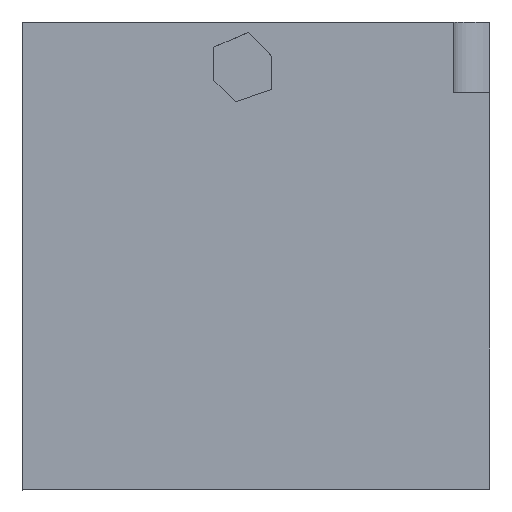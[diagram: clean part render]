
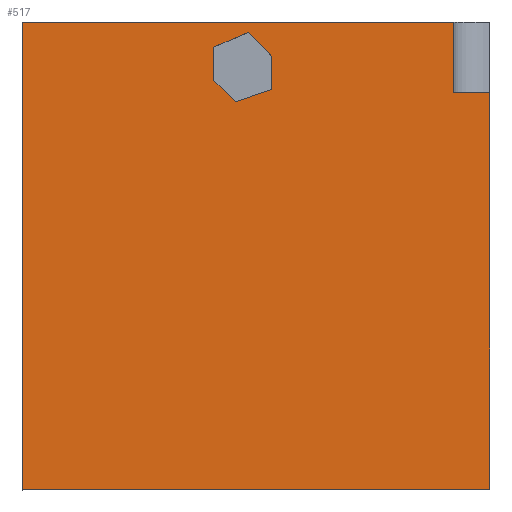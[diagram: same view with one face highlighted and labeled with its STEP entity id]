
A CAD part, top view. The second image highlights one B-rep face of the part: STEP entity #517.
In plain terms, the highlighted planar face has unit normal (0, 0, 1).
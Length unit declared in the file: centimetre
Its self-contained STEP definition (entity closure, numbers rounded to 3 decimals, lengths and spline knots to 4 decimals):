
#4 = CARTESIAN_POINT ( 'NONE',  ( 0., 0., 1000. ) ) ;
#15 = AXIS2_PLACEMENT_3D ( 'NONE', #153, #516, #872 ) ;
#34 = VECTOR ( 'NONE', #616, 100. ) ;
#39 = LINE ( 'NONE', #45, #951 ) ;
#45 = CARTESIAN_POINT ( 'NONE',  ( 1000., 1000., 1000. ) ) ;
#49 = VERTEX_POINT ( 'NONE', #676 ) ;
#89 = CARTESIAN_POINT ( 'NONE',  ( 0., 1000., 1000. ) ) ;
#91 = ORIENTED_EDGE ( 'NONE', *, *, #715, .F. ) ;
#101 = EDGE_CURVE ( 'NONE', #917, #49, #406, .T. ) ;
#116 = DIRECTION ( 'NONE',  ( 0., 1., 0. ) ) ;
#122 = ORIENTED_EDGE ( 'NONE', *, *, #808, .F. ) ;
#153 = CARTESIAN_POINT ( 'NONE',  ( 0., 0., 1000. ) ) ;
#154 = CARTESIAN_POINT ( 'NONE',  ( 1000., 0., 1000. ) ) ;
#160 = VECTOR ( 'NONE', #474, 100. ) ;
#174 = VECTOR ( 'NONE', #212, 100. ) ;
#180 = CARTESIAN_POINT ( 'NONE',  ( 410.0288, 946.1053, 1000. ) ) ;
#187 = CARTESIAN_POINT ( 'NONE',  ( 0., 849.4527, 1000. ) ) ;
#189 = EDGE_CURVE ( 'NONE', #912, #325, #1149, .T. ) ;
#196 = VECTOR ( 'NONE', #466, 100. ) ;
#199 = ORIENTED_EDGE ( 'NONE', *, *, #207, .T. ) ;
#201 = CARTESIAN_POINT ( 'NONE',  ( 533.9582, 855.685, 1000. ) ) ;
#204 = ORIENTED_EDGE ( 'NONE', *, *, #673, .T. ) ;
#206 = LINE ( 'NONE', #933, #174 ) ;
#207 = EDGE_CURVE ( 'NONE', #1107, #634, #530, .T. ) ;
#211 = ORIENTED_EDGE ( 'NONE', *, *, #719, .F. ) ;
#212 = DIRECTION ( 'NONE',  ( -0.916, -0.401, 0. ) ) ;
#224 = DIRECTION ( 'NONE',  ( 0., 1., 0. ) ) ;
#249 = DIRECTION ( 'NONE',  ( 0., -1., 0. ) ) ;
#291 = VERTEX_POINT ( 'NONE', #180 ) ;
#309 = LINE ( 'NONE', #735, #614 ) ;
#317 = CARTESIAN_POINT ( 'NONE',  ( 455.4455, 829.138, 1000. ) ) ;
#325 = VERTEX_POINT ( 'NONE', #1017 ) ;
#361 = ORIENTED_EDGE ( 'NONE', *, *, #846, .T. ) ;
#374 = LINE ( 'NONE', #730, #160 ) ;
#404 = CARTESIAN_POINT ( 'NONE',  ( 410.0288, 874.5546, 1000. ) ) ;
#406 = LINE ( 'NONE', #849, #893 ) ;
#411 = CARTESIAN_POINT ( 'NONE',  ( 455.4455, 829.138, 1000. ) ) ;
#413 = LINE ( 'NONE', #778, #630 ) ;
#448 = DIRECTION ( 'NONE',  ( -1., 0., 0. ) ) ;
#457 = ORIENTED_EDGE ( 'NONE', *, *, #633, .T. ) ;
#461 = VECTOR ( 'NONE', #448, 100. ) ;
#462 = LINE ( 'NONE', #187, #196 ) ;
#466 = DIRECTION ( 'NONE',  ( -1., 0., 0. ) ) ;
#467 = EDGE_CURVE ( 'NONE', #291, #755, #413, .T. ) ;
#471 = EDGE_LOOP ( 'NONE', ( #91, #122, #211, #953, #559, #770 ) ) ;
#474 = DIRECTION ( 'NONE',  ( 0.707, -0.707, 0. ) ) ;
#480 = DIRECTION ( 'NONE',  ( 0.947, 0.32, 0. ) ) ;
#502 = VECTOR ( 'NONE', #971, 100. ) ;
#516 = DIRECTION ( 'NONE',  ( 0., 0., 1. ) ) ;
#517 = ADVANCED_FACE ( 'NONE', ( #602, #521 ), #957, .T. ) ;
#518 = CARTESIAN_POINT ( 'NONE',  ( 922.3464, 1000., 1000. ) ) ;
#521 = FACE_OUTER_BOUND ( 'NONE', #832, .T. ) ;
#530 = LINE ( 'NONE', #1137, #502 ) ;
#559 = ORIENTED_EDGE ( 'NONE', *, *, #895, .F. ) ;
#579 = ORIENTED_EDGE ( 'NONE', *, *, #732, .T. ) ;
#602 = FACE_BOUND ( 'NONE', #471, .T. ) ;
#614 = VECTOR ( 'NONE', #757, 100. ) ;
#616 = DIRECTION ( 'NONE',  ( -0.707, 0.707, 0. ) ) ;
#630 = VECTOR ( 'NONE', #249, 100. ) ;
#633 = EDGE_CURVE ( 'NONE', #917, #1107, #894, .T. ) ;
#634 = VERTEX_POINT ( 'NONE', #4 ) ;
#650 = LINE ( 'NONE', #317, #651 ) ;
#651 = VECTOR ( 'NONE', #480, 100. ) ;
#655 = ORIENTED_EDGE ( 'NONE', *, *, #101, .F. ) ;
#666 = VERTEX_POINT ( 'NONE', #1082 ) ;
#673 = EDGE_CURVE ( 'NONE', #666, #49, #462, .T. ) ;
#676 = CARTESIAN_POINT ( 'NONE',  ( 922.3464, 849.4527, 1000. ) ) ;
#687 = CARTESIAN_POINT ( 'NONE',  ( 533.9582, 855.685, 1000. ) ) ;
#715 = EDGE_CURVE ( 'NONE', #916, #912, #914, .T. ) ;
#719 = EDGE_CURVE ( 'NONE', #755, #936, #374, .T. ) ;
#730 = CARTESIAN_POINT ( 'NONE',  ( 410.0288, 874.5546, 1000. ) ) ;
#732 = EDGE_CURVE ( 'NONE', #634, #983, #309, .T. ) ;
#735 = CARTESIAN_POINT ( 'NONE',  ( 0., 0., 1000. ) ) ;
#755 = VERTEX_POINT ( 'NONE', #404 ) ;
#757 = DIRECTION ( 'NONE',  ( 1., 0., 0. ) ) ;
#766 = DIRECTION ( 'NONE',  ( 0., -1., 0. ) ) ;
#770 = ORIENTED_EDGE ( 'NONE', *, *, #189, .F. ) ;
#778 = CARTESIAN_POINT ( 'NONE',  ( 410.0288, 946.1053, 1000. ) ) ;
#780 = CARTESIAN_POINT ( 'NONE',  ( 533.9582, 927.2357, 1000. ) ) ;
#788 = CARTESIAN_POINT ( 'NONE',  ( 533.9582, 927.2357, 1000. ) ) ;
#808 = EDGE_CURVE ( 'NONE', #936, #916, #650, .T. ) ;
#821 = CARTESIAN_POINT ( 'NONE',  ( 0., 1000., 1000. ) ) ;
#832 = EDGE_LOOP ( 'NONE', ( #655, #457, #199, #579, #361, #204 ) ) ;
#846 = EDGE_CURVE ( 'NONE', #983, #666, #39, .T. ) ;
#849 = CARTESIAN_POINT ( 'NONE',  ( 922.3464, 849.4527, 1000. ) ) ;
#863 = VECTOR ( 'NONE', #116, 100. ) ;
#872 = DIRECTION ( 'NONE',  ( 1., 0., 0. ) ) ;
#893 = VECTOR ( 'NONE', #766, 100. ) ;
#894 = LINE ( 'NONE', #89, #461 ) ;
#895 = EDGE_CURVE ( 'NONE', #325, #291, #206, .T. ) ;
#912 = VERTEX_POINT ( 'NONE', #780 ) ;
#914 = LINE ( 'NONE', #201, #863 ) ;
#916 = VERTEX_POINT ( 'NONE', #687 ) ;
#917 = VERTEX_POINT ( 'NONE', #518 ) ;
#933 = CARTESIAN_POINT ( 'NONE',  ( 483.0944, 978.0996, 1000. ) ) ;
#936 = VERTEX_POINT ( 'NONE', #411 ) ;
#951 = VECTOR ( 'NONE', #224, 100. ) ;
#953 = ORIENTED_EDGE ( 'NONE', *, *, #467, .F. ) ;
#957 = PLANE ( 'NONE',  #15 ) ;
#971 = DIRECTION ( 'NONE',  ( 0., -1., 0. ) ) ;
#983 = VERTEX_POINT ( 'NONE', #154 ) ;
#1017 = CARTESIAN_POINT ( 'NONE',  ( 483.0944, 978.0996, 1000. ) ) ;
#1082 = CARTESIAN_POINT ( 'NONE',  ( 1000., 849.4527, 1000. ) ) ;
#1107 = VERTEX_POINT ( 'NONE', #821 ) ;
#1137 = CARTESIAN_POINT ( 'NONE',  ( 0., 1000., 1000. ) ) ;
#1149 = LINE ( 'NONE', #788, #34 ) ;
